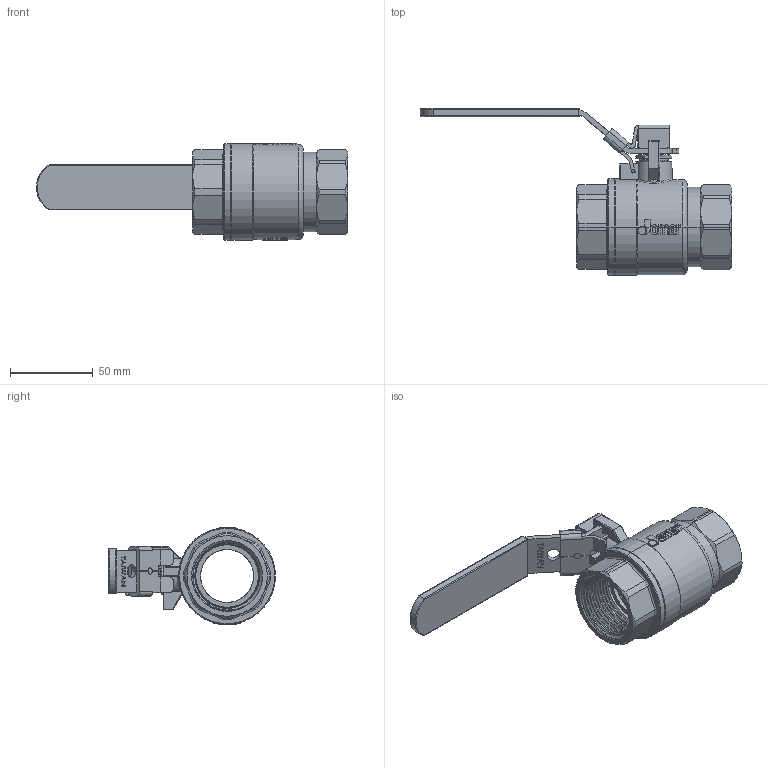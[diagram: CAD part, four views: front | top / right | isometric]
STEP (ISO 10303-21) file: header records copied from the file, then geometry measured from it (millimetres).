
FILE_DESCRIPTION (( 'STEP AP203' ), '1' );
FILE_NAME ('ABL746-有掛鎖-1.25''''JOMAR球閥體-牙口組合-無鉛.STEP', '2025-12-15T07:49:48', ( '' ), ( '' ), 'SwSTEP 2.0', 'SolidWorks 2018', '' );
FILE_SCHEMA (( 'CONFIG_CONTROL_DESIGN' ));
Length unit declared in the file: millimetre
Products named in the file (14): DN32-本玛рも-CBL215э155; EBL706A; ABL746-有掛鎖-1.25''''JOMAR球閥體-牙口組合-無鉛; RBL706; DN32-CBL746-白色膠套-T&G-200CSSG-LH; BBL706A-1.25''''JOMAR球閥八角頭帽蓋-無鉛無插溝; BBL706-1.25''''JOMAR球閥體-無鉛無插溝; EBL306; NGV109; TBL267A (TBL106); GBL604; DN32-掛鎖; EBL706; DN32-CBL746-掛鎖把手組合
Assembly tree (14 placements, depth 3):
  ABL746-有掛鎖-1.25''''JOMAR球閥體-牙口組合-無鉛
    BBL706-1.25''''JOMAR球閥體-無鉛無插溝
    TBL267A (TBL106)
    EBL306  x2
    EBL706A
    EBL706
    NGV109
    RBL706
    GBL604
    BBL706A-1.25''''JOMAR球閥八角頭帽蓋-無鉛無插溝
    DN32-CBL746-掛鎖把手組合
      DN32-本玛рも-CBL215э155
      DN32-掛鎖
    DN32-CBL746-白色膠套-T&G-200CSSG-LH
Bounding box: 188 x 100.86 x 59 mm (x, y, z)
Volume: 138674.3 mm3; surface area: 90054.2 mm2
Topology: 13 solids, 13 shells, 2405 faces, 6449 edges, 4246 vertices
Faces by surface type: plane 1272, bspline 655, cylinder 307, cone 129, torus 24, sphere 18
Entity records: 129837 total; most frequent: CARTESIAN_POINT 73640, ORIENTED_EDGE 12814, DIRECTION 8728, EDGE_CURVE 6407, VERTEX_POINT 4226, LINE 3972, VECTOR 3972, EDGE_LOOP 2607
